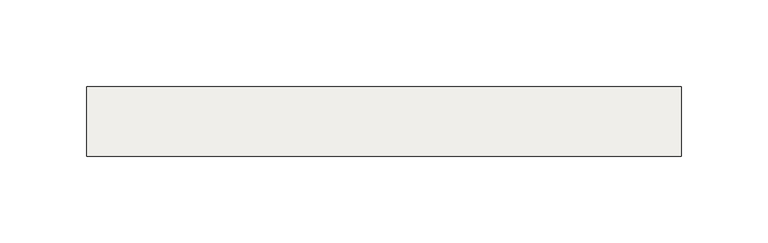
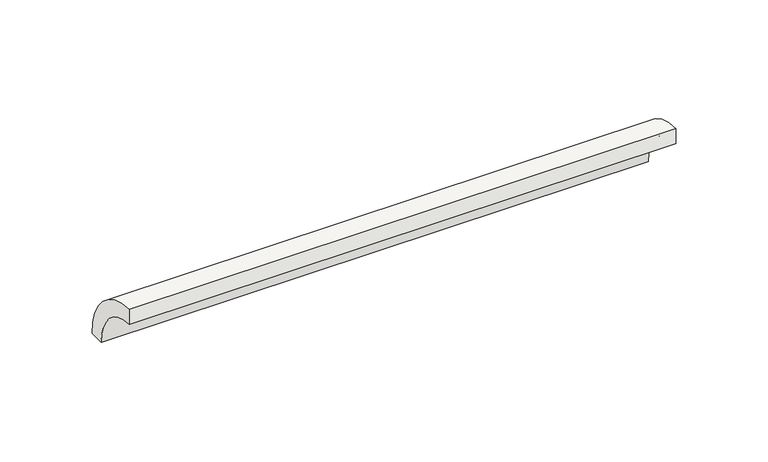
"""IFC4 building model written with IfcOpenShell, lengths in millimetres: slab geometry, ROSA GRES_183 : Pieza 183_Tresor_Java_Anti-Slip."""

from ifc_helpers import new_model, si_unit, point, frame, frame_2d, origin, origin_2d, place, context, project, spatial, polyline, circle_curve, trimmed, segment, composite_curve, outline, extrude, source, transform, mapped, element, save


def slab_4f954f11(model_context):
    return source(origin(), model_context, "Body", "SweptSolid", [
        extrude(outline(composite_curve([segment(trimmed(circle_curve(origin_2d(), 40.0), [point((0.0, 40.0))], [point((40.0, 0.0))], False, "CARTESIAN"), True, "CONTINUOUS"), segment(polyline([(40.0, 0.0), (30.0265886, 0.0)]), True, "CONTINUOUS"), segment(trimmed(circle_curve(frame_2d((0.0044453, 0.0044453)), 30.0221435), [point((30.0265886, 0.0))], [point((0.0, 30.0265886))], True, "CARTESIAN"), True, "CONTINUOUS"), segment(polyline([(0.0, 30.0265886), (0.0, 40.0)]), True, "CONTINUOUS")], self_intersect=False)), frame((0.0, 0.0, 0.0), z_axis=(1.0, 0.0, 0.0), x_axis=(0.0, 1.0, 0.0)), (0.0, 0.0, 1.0), 342.5),
    ])


if __name__ == "__main__":
    model = new_model("IFC4")
    model_context = context("Model", 3, world=origin())
    ifc_project = project(units=[si_unit("LENGTHUNIT", "METRE", prefix="MILLI")], contexts=[model_context])
    site = spatial("IfcSite", under=ifc_project)
    building = spatial("IfcBuilding", under=site)
    placement = place(None, origin())
    slab_shape = slab_4f954f11(model_context)
    element("IfcSlab", 1, ObjectType="ROSA GRES_183 : Pieza 183_Tresor_Java_Anti-Slip", at=placement, inside=building, context=model_context, shape_type="MappedRepresentation", body=[
        mapped(slab_shape, transform((0.0, 0.0, 0.0), x_axis=(1.0, 0.0, 0.0), y_axis=(0.0, 1.0, 0.0), z_axis=(0.0, 0.0, 1.0))),
    ])
    save(model, "model.ifc")
